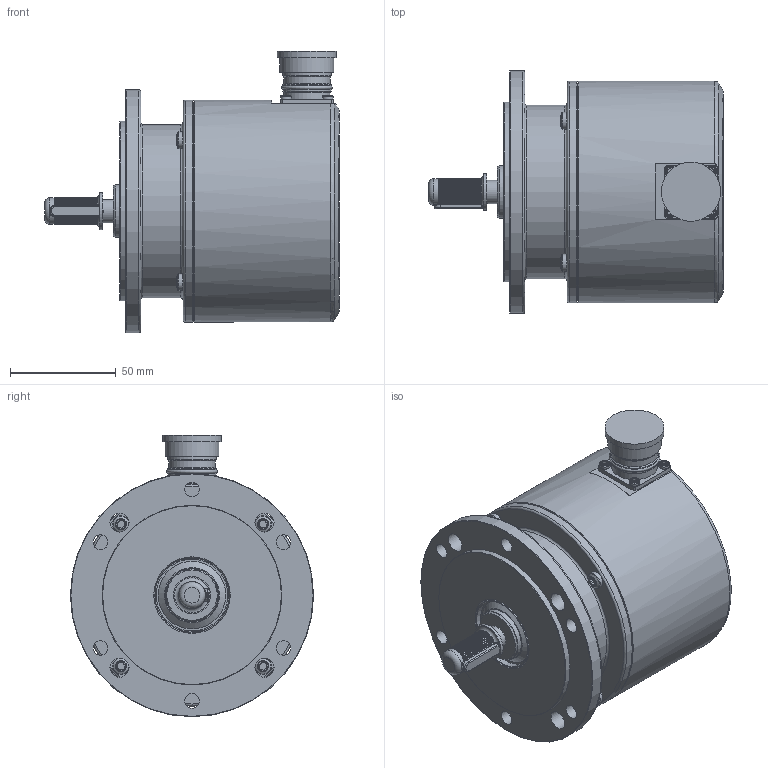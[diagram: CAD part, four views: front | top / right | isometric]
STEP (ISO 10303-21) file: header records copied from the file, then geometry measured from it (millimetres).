
FILE_DESCRIPTION(/* description */ ('Gehäuse'),/* implementation_level */ '2;1');
FILE_NAME(/* name */ 'C:\Users\kwe\Desktop\POG 83.stp',/* time_stamp */ '2021-01-29T07:55:40+01:00',/* author */ ('kwe'),/* organization */ (''),/* preprocessor_version */ 'ST-DEVELOPER v16.1',/* originating_system */ 'Autodesk Inventor 2016',/* authorisation */ '');
FILE_SCHEMA (('AUTOMOTIVE_DESIGN { 1 0 10303 214 3 1 1 }'));
Length unit declared in the file: millimetre
Products named in the file (20): DB1ENG-00063388B; DB1ENG-00020793-13; DB1ENG-00012704A; DB1ENG-00028831; DB1ENG-00067427; GS-ORING3; GS-ORING4; DB1ENG-00067428; 503181; DB1ENG-00065123A; DB1ENG-00064815; DB1ENG-00020793-16; DB1ENG-00063307B; DB1ENG-00064005A; DB1ENG-00052053; DB1ENG-00064811A; DB1ENG-00049402; DB1ENG-00024671; DB1ENG-00064639; DB1ENG-00063383
Assembly tree (39 placements, depth 5):
  DB1ENG-00063383
    DB1ENG-00064815
      DB1ENG-00063388B
      DB1ENG-00020793-13  x4
      DB1ENG-00065123A
        DB1ENG-00067428
          DB1ENG-00012704A
          DB1ENG-00028831  x12
          DB1ENG-00067427
          GS-ORING3
          GS-ORING4
        503181
    DB1ENG-00020793-16  x4
    DB1ENG-00064811A
      DB1ENG-00063307B
      DB1ENG-00064005A
      DB1ENG-00052053
    DB1ENG-00049402  x4
    DB1ENG-00024671
    DB1ENG-00064639
Bounding box: 139.5 x 115 x 133.1 mm (x, y, z)
Volume: 398104.4 mm3; surface area: 128344.7 mm2
Topology: 35 solids, 35 shells, 1252 faces, 2919 edges, 1879 vertices
Faces by surface type: plane 472, cylinder 460, bspline 176, cone 78, torus 66
Full cylindrical faces by diameter (mm): 0.744 x12, 0.95 x12, 1.45 x12, 1.612 x12, 1.95 x24, 2.013 x4, 2.35 x12, 2.459 x4, 2.5 x4, 2.7 x4, 3 x4, 3.242 x4, 4 x4, 4.5 x4, 5 x4, 5.6 x4, 7 x6, 8 x4, 9 x4, 11 x1, 11.007 x1, 11.995 x1, 15 x1, 17 x1, 17.3 x1, 17.5 x1, 19.8 x1, 20.015 x1, 20.05 x1, 21 x1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
Entity records: 30276 total; most frequent: CARTESIAN_POINT 10005, ORIENTED_EDGE 4052, DIRECTION 3712, EDGE_CURVE 2026, AXIS2_PLACEMENT_3D 1409, VERTEX_POINT 1407, EDGE_LOOP 1213, FACE_OUTER_BOUND 895
